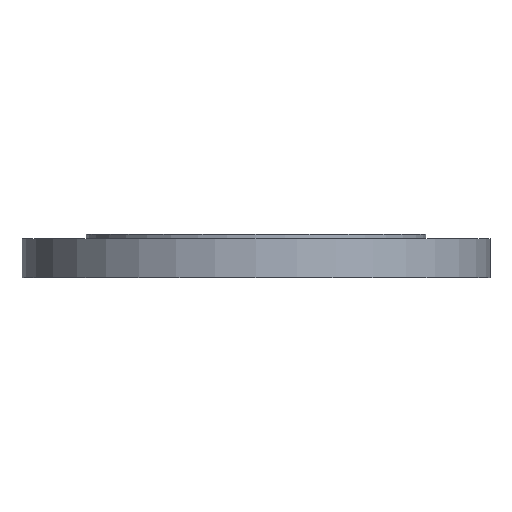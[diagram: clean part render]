
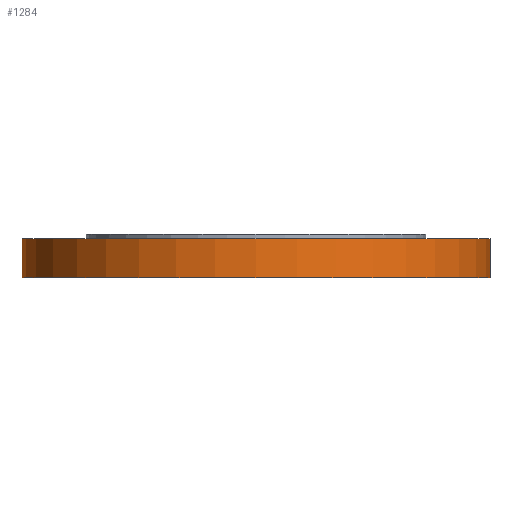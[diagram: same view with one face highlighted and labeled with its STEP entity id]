
A CAD part, front view. The second image highlights one B-rep face of the part: STEP entity #1284.
In plain terms, the highlighted cylindrical face has radius 290 mm (diameter 580 mm), a partial arc.
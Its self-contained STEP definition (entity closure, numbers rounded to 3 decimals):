
#43 = EDGE_CURVE ( 'NONE', #1286, #1187, #919, .T. ) ;
#114 = DIRECTION ( 'NONE',  ( -1., 0., 0. ) ) ;
#115 = DIRECTION ( 'NONE',  ( 0., 0., -1. ) ) ;
#117 = CARTESIAN_POINT ( 'NONE',  ( 0., 0., -5.5 ) ) ;
#229 = VECTOR ( 'NONE', #917, 1000. ) ;
#313 = CARTESIAN_POINT ( 'NONE',  ( -290., 0., -54. ) ) ;
#314 = CARTESIAN_POINT ( 'NONE',  ( 290., 0., -5.5 ) ) ;
#316 = DIRECTION ( 'NONE',  ( 1., 0., 0. ) ) ;
#318 = DIRECTION ( 'NONE',  ( 0., 0., 1. ) ) ;
#319 = CARTESIAN_POINT ( 'NONE',  ( 0., 0., -135. ) ) ;
#320 = CYLINDRICAL_SURFACE ( 'NONE', #1217, 290. ) ;
#321 = FACE_OUTER_BOUND ( 'NONE', #956, .T. ) ;
#415 = AXIS2_PLACEMENT_3D ( 'NONE', #117, #115, #114 ) ;
#428 = CARTESIAN_POINT ( 'NONE',  ( -290., 0., -5.5 ) ) ;
#568 = CARTESIAN_POINT ( 'NONE',  ( 290., 0., -54. ) ) ;
#669 = EDGE_CURVE ( 'NONE', #1035, #1285, #765, .T. ) ;
#712 = EDGE_CURVE ( 'NONE', #1035, #1286, #1006, .T. ) ;
#720 = DIRECTION ( 'NONE',  ( -1., 0., 0. ) ) ;
#721 = DIRECTION ( 'NONE',  ( 0., 0., -1. ) ) ;
#722 = CARTESIAN_POINT ( 'NONE',  ( 0., 0., -54. ) ) ;
#763 = DIRECTION ( 'NONE',  ( 0., 0., 1. ) ) ;
#764 = CARTESIAN_POINT ( 'NONE',  ( 290., 0., -135. ) ) ;
#765 = LINE ( 'NONE', #764, #989 ) ;
#917 = DIRECTION ( 'NONE',  ( 0., 0., 1. ) ) ;
#918 = CARTESIAN_POINT ( 'NONE',  ( -290., 0., -135. ) ) ;
#919 = LINE ( 'NONE', #918, #229 ) ;
#956 = EDGE_LOOP ( 'NONE', ( #1387, #1391, #1393, #1395 ) ) ;
#989 = VECTOR ( 'NONE', #763, 1000. ) ;
#1006 = CIRCLE ( 'NONE', #1008, 290. ) ;
#1008 = AXIS2_PLACEMENT_3D ( 'NONE', #722, #721, #720 ) ;
#1035 = VERTEX_POINT ( 'NONE', #568 ) ;
#1187 = VERTEX_POINT ( 'NONE', #428 ) ;
#1217 = AXIS2_PLACEMENT_3D ( 'NONE', #319, #318, #316 ) ;
#1284 = ADVANCED_FACE ( 'NONE', ( #321 ), #320, .T. ) ;
#1285 = VERTEX_POINT ( 'NONE', #314 ) ;
#1286 = VERTEX_POINT ( 'NONE', #313 ) ;
#1387 = ORIENTED_EDGE ( 'NONE', *, *, #43, .F. ) ;
#1391 = ORIENTED_EDGE ( 'NONE', *, *, #712, .F. ) ;
#1393 = ORIENTED_EDGE ( 'NONE', *, *, #669, .T. ) ;
#1395 = ORIENTED_EDGE ( 'NONE', *, *, #1441, .T. ) ;
#1441 = EDGE_CURVE ( 'NONE', #1285, #1187, #1497, .T. ) ;
#1497 = CIRCLE ( 'NONE', #415, 290. ) ;
